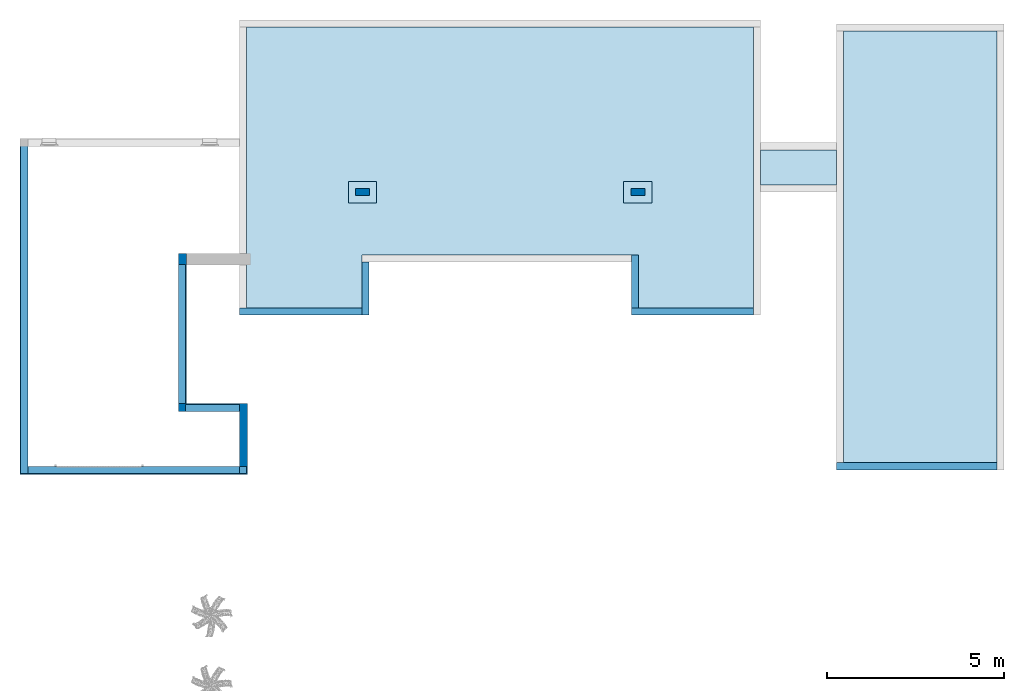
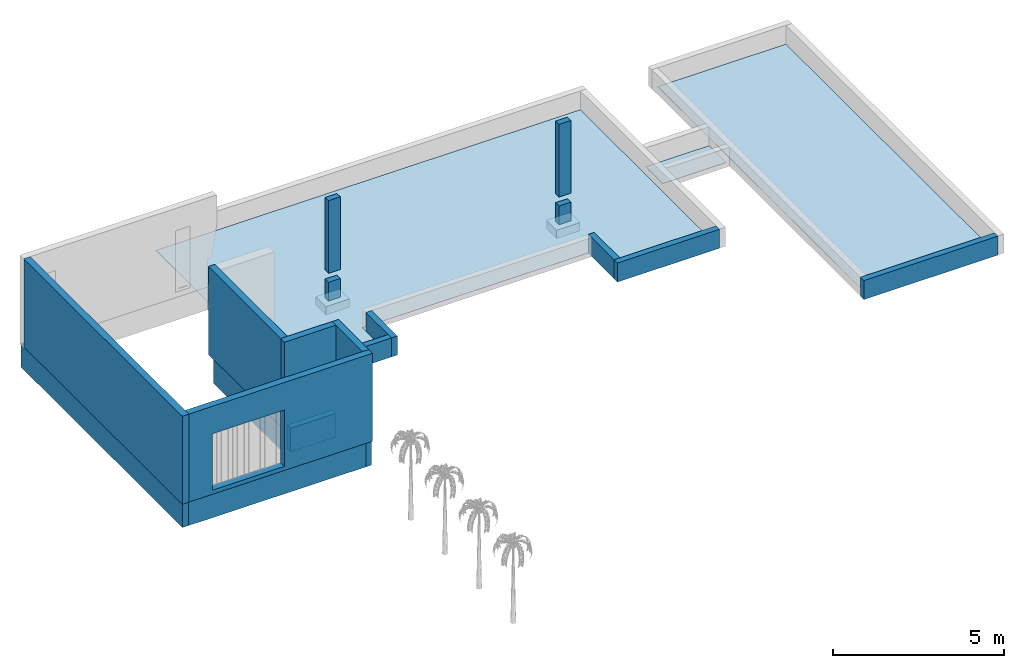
# One storey, part 1 of 3: 15 walls, 5 slabs, 2 columns, 1 opening.
"""IFC2X3 building model written with IfcOpenShell, lengths in metres."""

import ifcopenshell
import ifcopenshell.guid

model = None  # the IFC model being written
_history = None  # IfcOwnerHistory: only IFC2X3 demands one
_inside = {}  # id of a spatial element -> (the spatial element, [elements in it])
_under = {}  # id of a project, library or spatial element -> (it, [spatial elements below it])
_declared = {}  # id of a project -> (the project, [libraries it declares])
_typed = {}  # id of a type object -> (the type object, [elements of that type])
_made_of = {}  # id of a material, layer set ... -> (it, [elements and type objects made of it])


def new_model(schema):
    """Start an empty IFC model of exactly this schema.

    Asked for "IFC4X3", IfcOpenShell would pick the latest addendum, in which some entities
    have other attributes; the version numbers below select the first issue.
    IFC2X3 requires an IfcOwnerHistory on every rooted entity: one is made here for all.
    """
    global model, _history
    if schema == "IFC4X3":
        model = ifcopenshell.file(schema_version=(4, 3, 0, 0))
    else:
        model = ifcopenshell.file(schema=schema)
    _inside.clear()
    _under.clear()
    _declared.clear()
    _typed.clear()
    _made_of.clear()
    _history = None
    if model.schema == "IFC2X3":
        org = make("IfcOrganization", Name="unknown")
        user = make(
            "IfcPersonAndOrganization",
            ThePerson=make("IfcPerson", FamilyName="unknown"),
            TheOrganization=org,
        )
        app = make(
            "IfcApplication",
            ApplicationDeveloper=org,
            Version="unknown",
            ApplicationFullName="unknown",
            ApplicationIdentifier="unknown",
        )
        _history = make(
            "IfcOwnerHistory",
            OwningUser=user,
            OwningApplication=app,
            ChangeAction="ADDED",
            CreationDate=0,
        )
    return model


def make(cls, **values):
    """One entity of the class cls with the attributes given. An attribute that is None is left unset."""
    return model.create_entity(
        cls, **{name: value for name, value in values.items() if value is not None}
    )


def entity(cls, *values):
    """Any entity or typed value of the class cls, its attributes in the order of the schema. None: left unset."""
    e = model.create_entity(cls)
    for i, value in enumerate(values):
        if value is not None:
            e[i] = value
    return e


def rooted(cls, **values):
    """An entity with a GlobalId (a new one), such as an element, a storey or a relation."""
    return make(cls, GlobalId=ifcopenshell.guid.new(), OwnerHistory=_history, **values)


def si_unit(unit_type, name, prefix=None):
    """IfcSIUnit, for example si_unit("LENGTHUNIT", "METRE", prefix="MILLI")."""
    return make("IfcSIUnit", UnitType=unit_type, Prefix=prefix, Name=name)


def converted_unit(unit_type, name, factor, base, dimensions=None, offset=None):
    """IfcConversionBasedUnit, such as the inch: factor (a typed value) times the base unit."""
    return make(
        "IfcConversionBasedUnit"
        if offset is None
        else "IfcConversionBasedUnitWithOffset",
        ConversionOffset=offset,
        Dimensions=None
        if dimensions is None
        else entity("IfcDimensionalExponents", *dimensions),
        UnitType=unit_type,
        Name=name,
        ConversionFactor=make(
            "IfcMeasureWithUnit", ValueComponent=factor, UnitComponent=base
        ),
    )


def derived_unit(unit_type, elements):
    """IfcDerivedUnit: a product of units, each with its exponent."""
    return make(
        "IfcDerivedUnit",
        Elements=[
            make("IfcDerivedUnitElement", Unit=unit, Exponent=power)
            for unit, power in elements
        ],
        UnitType=unit_type,
    )


def assignment(units):
    """IfcUnitAssignment: the units of a project."""
    return None if units is None else make("IfcUnitAssignment", Units=units)


def point(xyz):
    """IfcCartesianPoint."""
    return None if xyz is None else make("IfcCartesianPoint", Coordinates=xyz)


def direction(xyz):
    """IfcDirection."""
    return None if xyz is None else make("IfcDirection", DirectionRatios=xyz)


def frame(location, z_axis=None, x_axis=None):
    """IfcAxis2Placement3D, a coordinate frame: its origin and axes. An axis left out is left unset."""
    return make(
        "IfcAxis2Placement3D",
        Location=point(location),
        Axis=direction(z_axis),
        RefDirection=direction(x_axis),
    )


def frame_2d(location, x_axis=None):
    """IfcAxis2Placement2D, a coordinate frame in the plane: its origin and x axis."""
    return make(
        "IfcAxis2Placement2D", Location=point(location), RefDirection=direction(x_axis)
    )


def origin():
    """The frame at (0, 0, 0) with its axes left unset."""
    return frame((0.0, 0.0, 0.0))


def origin_2d_with_axis():
    """The frame at (0, 0) in the plane with the x axis (1, 0) written out."""
    return frame_2d((0.0, 0.0), x_axis=(1.0, 0.0))


def place(relative_to, where):
    """IfcLocalPlacement: puts the frame where relative to a parent placement (None: the world)."""
    return make(
        "IfcLocalPlacement", PlacementRelTo=relative_to, RelativePlacement=where
    )


def context(
    kind, dimensions, precision=None, world=None, true_north=None, identifier=None
):
    """IfcGeometricRepresentationContext, for example the 3D "Model" context."""
    return make(
        "IfcGeometricRepresentationContext",
        ContextIdentifier=identifier,
        ContextType=kind,
        CoordinateSpaceDimension=dimensions,
        Precision=precision,
        WorldCoordinateSystem=world,
        TrueNorth=true_north,
    )


def subcontext(parent, identifier, kind, view, scale=None):
    """IfcGeometricRepresentationSubContext, for example "Body" below "Model"."""
    return make(
        "IfcGeometricRepresentationSubContext",
        ContextIdentifier=identifier,
        ContextType=kind,
        ParentContext=parent,
        TargetScale=scale,
        TargetView=view,
    )


def project(units=None, contexts=None):
    """IfcProject with its units and contexts."""
    return rooted(
        "IfcProject",
        Name="project",
        RepresentationContexts=contexts,
        UnitsInContext=assignment(units),
    )


def spatial(cls, under=None, at=None, **own):
    """A site, building, storey or space (cls), placed at a placement, below another one or the project."""
    s = rooted(cls, ObjectPlacement=at, **own)
    if under is not None:
        _under.setdefault(under.id(), (under, []))[1].append(s)
    return s


def polyline(points):
    """IfcPolyline through the points."""
    return make("IfcPolyline", Points=[point(p) for p in points])


def profile(cls, at=None, kind="AREA", **sizes):
    """A parametric profile (cls). Its sizes go by their IFC names, for example OverallWidth=200.0."""
    return make(cls, ProfileType=kind, Position=at, **sizes)


def rectangle(**sizes):
    """IfcRectangleProfileDef."""
    return profile("IfcRectangleProfileDef", **sizes)


def outline(outer, holes=None, kind="AREA"):
    """IfcArbitraryClosedProfileDef: a profile drawn as a closed curve; with holes, ...WithVoids."""
    if holes is None:
        return make("IfcArbitraryClosedProfileDef", ProfileType=kind, OuterCurve=outer)
    return make(
        "IfcArbitraryProfileDefWithVoids",
        ProfileType=kind,
        OuterCurve=outer,
        InnerCurves=holes,
    )


def extrude(swept, where, along, depth):
    """IfcExtrudedAreaSolid: the profile swept, set in the frame where, extruded along a direction by depth."""
    return make(
        "IfcExtrudedAreaSolid",
        SweptArea=swept,
        Position=where,
        ExtrudedDirection=direction(along),
        Depth=depth,
    )


def shape(context_of_items, identifier, shape_type, items):
    """IfcShapeRepresentation: the items that make up one representation, for example the "Body"."""
    return make(
        "IfcShapeRepresentation",
        ContextOfItems=context_of_items,
        RepresentationIdentifier=identifier,
        RepresentationType=shape_type,
        Items=items,
    )


def source(mapping_origin, context_of_items, identifier, shape_type, items):
    """IfcRepresentationMap: a shape defined once, which mapped items show again and again."""
    return make(
        "IfcRepresentationMap",
        MappingOrigin=mapping_origin,
        MappedRepresentation=shape(context_of_items, identifier, shape_type, items),
    )


def transform(
    local_origin,
    x_axis=None,
    y_axis=None,
    z_axis=None,
    scale=None,
    scale2=None,
    scale3=None,
    uniform=True,
):
    """IfcCartesianTransformationOperator3D, or its non-uniform kind. x_axis, y_axis, z_axis: its Axis1, 2, 3."""
    if uniform:
        return make(
            "IfcCartesianTransformationOperator3D",
            Axis1=direction(x_axis),
            Axis2=direction(y_axis),
            LocalOrigin=point(local_origin),
            Scale=scale,
            Axis3=direction(z_axis),
        )
    return make(
        "IfcCartesianTransformationOperator3DnonUniform",
        Axis1=direction(x_axis),
        Axis2=direction(y_axis),
        LocalOrigin=point(local_origin),
        Scale=scale,
        Axis3=direction(z_axis),
        Scale2=scale2,
        Scale3=scale3,
    )


def mapped(mapping_source, mapping_target):
    """IfcMappedItem: shows the shape of a source again, moved by a transform."""
    return make(
        "IfcMappedItem", MappingSource=mapping_source, MappingTarget=mapping_target
    )


def material(Name=None, Category=None):
    """IfcMaterial."""
    return make("IfcMaterial", Name=Name, Category=Category)


def layer(
    of_material, thickness, ventilated=None, Name=None, Category=None, Priority=None
):
    """IfcMaterialLayer: one layer of a wall or slab, of a material (None: an air gap)."""
    return make(
        "IfcMaterialLayer",
        Material=of_material,
        LayerThickness=thickness,
        IsVentilated=ventilated,
        Name=Name,
        Category=Category,
        Priority=Priority,
    )


def layer_set(layers, Name=None):
    """IfcMaterialLayerSet."""
    return make("IfcMaterialLayerSet", MaterialLayers=layers, LayerSetName=Name)


def layer_usage(for_layer_set, set_direction, sense, offset, extent=None):
    """IfcMaterialLayerSetUsage: how a layer set lies in its element."""
    return make(
        "IfcMaterialLayerSetUsage",
        ForLayerSet=for_layer_set,
        LayerSetDirection=set_direction,
        DirectionSense=sense,
        OffsetFromReferenceLine=offset,
        ReferenceExtent=extent,
    )


def made_of(thing, what):
    """Note that an element or type object is made of a material, layer set ...; save() writes the relation."""
    if what is not None:
        _made_of.setdefault(what.id(), (what, []))[1].append(thing)
    return thing


def type_object(cls, material=None, **own):
    """A type object (cls), such as IfcWallType, which elements share."""
    return made_of(rooted(cls, **own), material)


def type_shapes(of_type, sources):
    """Give a type object the sources (RepresentationMaps) that its elements show as mapped items."""
    of_type.RepresentationMaps = sources


def element(
    cls,
    number,
    at=None,
    inside=None,
    cuts=None,
    type_object=None,
    material=None,
    context=None,
    identifier="Body",
    shape_type=None,
    held_by="IfcProductDefinitionShape",
    body=None,
    shapes=None,
    **own,
):
    """One element of the class cls, such as IfcWall. Its Tag is "e" and its number.

    at: its placement. inside: the storey or other place that contains it. cuts: it is an
    opening in that element (IfcRelVoidsElement). A single representation is given by context,
    identifier, shape_type and body (its items); several are given by shapes. held_by: the class
    of the entity that holds the representations. save() writes the other relations.
    """
    e = rooted(cls, Tag="e%d" % number, ObjectPlacement=at, **own)
    if body is not None:
        shapes = [shape(context, identifier, shape_type, body)]
    if shapes is not None:
        e.Representation = make(held_by, Representations=shapes)
    if inside is not None:
        _inside.setdefault(inside.id(), (inside, []))[1].append(e)
    if cuts is not None:
        rooted(
            "IfcRelVoidsElement", RelatingBuildingElement=cuts, RelatedOpeningElement=e
        )
    if type_object is not None:
        _typed.setdefault(type_object.id(), (type_object, []))[1].append(e)
    return made_of(e, material)


def aggregate(whole, parts):
    """IfcRelAggregates: a whole, such as a stair, and the parts it consists of."""
    return rooted("IfcRelAggregates", RelatingObject=whole, RelatedObjects=parts)


def save(model, path):
    """Write the relations noted so far, then the file.

    IfcRelAggregates (storeys below a building ...), IfcRelContainedInSpatialStructure (elements
    in a storey), IfcRelDefinesByType, IfcRelAssociatesMaterial and IfcRelDeclares: one each for
    every whole, place, type object, material and project.
    """
    for whole, parts in _under.values():
        aggregate(whole, parts)
    for where, things in _inside.values():
        rooted(
            "IfcRelContainedInSpatialStructure",
            RelatedElements=things,
            RelatingStructure=where,
        )
    for kind, things in _typed.values():
        rooted("IfcRelDefinesByType", RelatedObjects=things, RelatingType=kind)
    for what, things in _made_of.values():
        rooted("IfcRelAssociatesMaterial", RelatedObjects=things, RelatingMaterial=what)
    for by, libraries in _declared.values():
        rooted("IfcRelDeclares", RelatingContext=by, RelatedDefinitions=libraries)
    model.write(path)


model = new_model("IFC2X3")

# Units and contexts
model_context = context("Model", 3, precision=1e-05, world=origin(), true_north=direction((6.12303176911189e-17, 1.0)))
body_context = subcontext(model_context, "Body", "Model", "MODEL_VIEW")
ifc_project = project(units=[si_unit("LENGTHUNIT", "METRE"), si_unit("AREAUNIT", "SQUARE_METRE"), si_unit("VOLUMEUNIT", "CUBIC_METRE"), converted_unit("PLANEANGLEUNIT", "DEGREE", entity("IfcRatioMeasure", 0.0174532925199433), si_unit("PLANEANGLEUNIT", "RADIAN"), dimensions=[0, 0, 0, 0, 0, 0, 0]), si_unit("MASSUNIT", "GRAM", prefix="KILO"), derived_unit("MASSDENSITYUNIT", [(si_unit("MASSUNIT", "GRAM", prefix="KILO"), 1), (si_unit("LENGTHUNIT", "METRE"), -3)]), si_unit("TIMEUNIT", "SECOND"), si_unit("FREQUENCYUNIT", "HERTZ"), si_unit("THERMODYNAMICTEMPERATUREUNIT", "DEGREE_CELSIUS"), derived_unit("THERMALTRANSMITTANCEUNIT", [(si_unit("MASSUNIT", "GRAM", prefix="KILO"), 1), (si_unit("THERMODYNAMICTEMPERATUREUNIT", "KELVIN"), -1), (si_unit("TIMEUNIT", "SECOND"), -3)]), derived_unit("VOLUMETRICFLOWRATEUNIT", [(si_unit("LENGTHUNIT", "METRE"), 3), (si_unit("TIMEUNIT", "SECOND"), -1)]), si_unit("ELECTRICCURRENTUNIT", "AMPERE"), si_unit("ELECTRICVOLTAGEUNIT", "VOLT"), si_unit("POWERUNIT", "WATT"), si_unit("FORCEUNIT", "NEWTON", prefix="KILO"), si_unit("ILLUMINANCEUNIT", "LUX"), si_unit("LUMINOUSFLUXUNIT", "LUMEN"), si_unit("LUMINOUSINTENSITYUNIT", "CANDELA"), derived_unit("USERDEFINED", [(si_unit("MASSUNIT", "GRAM", prefix="KILO"), -1), (si_unit("LENGTHUNIT", "METRE"), -2), (si_unit("TIMEUNIT", "SECOND"), 3), (si_unit("LUMINOUSFLUXUNIT", "LUMEN"), 1)]), derived_unit("LINEARVELOCITYUNIT", [(si_unit("LENGTHUNIT", "METRE"), 1), (si_unit("TIMEUNIT", "SECOND"), -1)]), si_unit("PRESSUREUNIT", "PASCAL"), derived_unit("USERDEFINED", [(si_unit("LENGTHUNIT", "METRE"), -2), (si_unit("MASSUNIT", "GRAM", prefix="KILO"), 1), (si_unit("TIMEUNIT", "SECOND"), -2)])], contexts=[model_context])

# Site, building, storey
site_placement = place(None, origin())
site = spatial("IfcSite", under=ifc_project, at=site_placement, Name="Surface", CompositionType="ELEMENT")
building_placement = place(site_placement, origin())
building = spatial("IfcBuilding", under=site, at=building_placement, CompositionType="ELEMENT")
storey_placement = place(building_placement, frame((0.0, 0.0, -1.0)))
storey = spatial("IfcBuildingStorey", under=building, at=storey_placement, Name="1 Mur de soubassement", CompositionType="ELEMENT", Elevation=-1.0000000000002)

# Columns
ifc_material_1 = material(Name="Maçonnerie - Béton coulé sur place")
column_type_1 = type_object("IfcColumnType", Name="200 mm x 400 mm", PredefinedType="COLUMN")
shared_shape_1 = source(origin(), body_context, "Body", "SweptSolid", [
    extrude(rectangle(XDim=0.199999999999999, YDim=0.4, at=origin_2d_with_axis()), frame((-1.5024888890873, 2.97701067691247, -1.0), z_axis=(0.0, 0.0, 1.0), x_axis=(0.0, -1.0, 0.0)), (0.0, 0.0, 1.0), 0.680000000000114),
    extrude(rectangle(XDim=0.199999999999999, YDim=0.4, at=origin_2d_with_axis()), frame((-1.5024888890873, 2.97701067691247, 0.0), z_axis=(0.0, 0.0, 1.0), x_axis=(0.0, -1.0, 0.0)), (0.0, 0.0, 1.0), 2.59999999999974),
])
type_shapes(column_type_1, [shared_shape_1])
column_1_placement = place(storey_placement, frame((0.0, 0.0, 1.0)))
element("IfcColumn", 1, at=column_1_placement, inside=storey, type_object=column_type_1, material=ifc_material_1, Name="Poteau béton - Rectangulaire:200 mm x 400 mm", ObjectType="200 mm x 400 mm", context=body_context, shape_type="MappedRepresentation", body=[
    mapped(shared_shape_1, transform((0.0, 0.0, 0.0), scale=1.0)),
])
column_type_2 = type_object("IfcColumnType", Name="200 mm x 400 mm", PredefinedType="COLUMN")
shared_shape_2 = source(origin(), body_context, "Body", "SweptSolid", [
    extrude(rectangle(XDim=0.199999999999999, YDim=0.4, at=origin_2d_with_axis()), frame((6.2975111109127, 2.97701067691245, -1.0), z_axis=(0.0, 0.0, 1.0), x_axis=(0.0, -1.0, 0.0)), (0.0, 0.0, 1.0), 0.680000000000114),
    extrude(rectangle(XDim=0.199999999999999, YDim=0.4, at=origin_2d_with_axis()), frame((6.2975111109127, 2.97701067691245, 0.0), z_axis=(0.0, 0.0, 1.0), x_axis=(0.0, -1.0, 0.0)), (0.0, 0.0, 1.0), 2.59999999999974),
])
type_shapes(column_type_2, [shared_shape_2])
column_2_placement = place(storey_placement, frame((0.0, 0.0, 1.0)))
element("IfcColumn", 2, at=column_2_placement, inside=storey, type_object=column_type_2, material=ifc_material_1, Name="Poteau béton - Rectangulaire:200 mm x 400 mm", ObjectType="200 mm x 400 mm", context=body_context, shape_type="MappedRepresentation", body=[
    mapped(shared_shape_2, transform((0.0, 0.0, 0.0), scale=1.0)),
])

# Slabs
ifc_material_2 = material(Name="Béton - Béton coulé sur place")
slab_1_placement = place(storey_placement, origin())
element("IfcSlab", 3, at=slab_1_placement, inside=storey, material=ifc_material_2, Name="Base rectangulaire:800mm x600mm x 300mm", ObjectType="Base rectangulaire:800mm x600mm x 300mm", PredefinedType="FLOOR", context=body_context, shape_type="SweptSolid", body=[
    extrude(rectangle(XDim=0.6, YDim=0.8, at=frame_2d((2.77555756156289e-16, -5.55111512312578e-16), x_axis=(1.0, 0.0))), frame((6.2975111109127, 2.97701067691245, -0.300000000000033), z_axis=(0.0, 0.0, 1.0), x_axis=(0.0, -1.0, 0.0)), (0.0, 0.0, 1.0), 0.3),
    extrude(rectangle(XDim=0.6, YDim=0.8, at=frame_2d((2.77555756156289e-16, -5.55111512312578e-16), x_axis=(1.0, 0.0))), frame((6.2975111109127, 2.97701067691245, -0.300000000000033), z_axis=(0.0, 0.0, 1.0), x_axis=(0.0, -1.0, 0.0)), (0.0, 0.0, 1.0), 0.3),
])
slab_2_placement = place(storey_placement, origin())
element("IfcSlab", 4, at=slab_2_placement, inside=storey, material=ifc_material_2, Name="Base rectangulaire:800mm x600mm x 300mm", ObjectType="Base rectangulaire:800mm x600mm x 300mm", PredefinedType="FLOOR", context=body_context, shape_type="SweptSolid", body=[
    extrude(rectangle(XDim=0.6, YDim=0.8, at=frame_2d((0.0, -5.55111512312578e-17), x_axis=(1.0, 0.0))), frame((-1.5024888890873, 2.97701067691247, -0.300000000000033), z_axis=(0.0, 0.0, 1.0), x_axis=(0.0, -1.0, 0.0)), (0.0, 0.0, 1.0), 0.3),
    extrude(rectangle(XDim=0.6, YDim=0.8, at=frame_2d((0.0, -5.55111512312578e-17), x_axis=(1.0, 0.0))), frame((-1.5024888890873, 2.97701067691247, -0.300000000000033), z_axis=(0.0, 0.0, 1.0), x_axis=(0.0, -1.0, 0.0)), (0.0, 0.0, 1.0), 0.3),
])
ifc_material_3 = material(Name="Terre")
ifc_layer_1 = layer(ifc_material_3, 0.01)
ifc_layer_set_1 = layer_set([ifc_layer_1], Name="Terre-plein:Terre - plein terre 1 cm")
ifc_layer_usage_1 = layer_usage(ifc_layer_set_1, "AXIS3", "NEGATIVE", 0.0)
slab_3_placement = place(storey_placement, origin())
element("IfcSlab", 5, at=slab_3_placement, inside=storey, material=ifc_layer_usage_1, Name="Terre-plein:Terre - plein terre 1 cm", ObjectType="Terre-plein:Terre - plein terre 1 cm", PredefinedType="FLOOR", context=body_context, shape_type="SweptSolid", body=[
    extrude(rectangle(XDim=4.33907358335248, YDim=12.23, at=frame_2d((-2.22044604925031e-15, 0.0), x_axis=(1.0, 0.0))), frame((14.2979743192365, 1.42938495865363, 0.0), z_axis=(0.0, 0.0, 1.0), x_axis=(-1.0, 0.0, 0.0)), (0.0, 0.0, 1.0), 0.01),
])
ifc_layer_usage_2 = layer_usage(ifc_layer_set_1, "AXIS3", "NEGATIVE", 0.0)
slab_4_placement = place(storey_placement, origin())
element("IfcSlab", 6, at=slab_4_placement, inside=storey, material=ifc_layer_usage_2, Name="Terre-plein:Terre - plein terre 1 cm", ObjectType="Terre-plein:Terre - plein terre 1 cm", PredefinedType="FLOOR", context=body_context, shape_type="SweptSolid", body=[
    extrude(rectangle(XDim=2.15092641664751, YDim=1.00000000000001, at=frame_2d((1.11022302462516e-15, -2.22044604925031e-16), x_axis=(1.0, 0.0))), frame((10.8529743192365, 3.67701067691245, 0.0), z_axis=(0.0, 0.0, 1.0), x_axis=(-1.0, 0.0, 0.0)), (0.0, 0.0, 1.0), 0.01),
])
ifc_layer_usage_3 = layer_usage(ifc_layer_set_1, "AXIS3", "NEGATIVE", 0.0)
slab_5_placement = place(storey_placement, origin())
element("IfcSlab", 7, at=slab_5_placement, inside=storey, material=ifc_layer_usage_3, Name="Terre-plein:Terre - plein terre 1 cm", ObjectType="Terre-plein:Terre - plein terre 1 cm", PredefinedType="FLOOR", context=body_context, shape_type="SweptSolid", body=[
    extrude(outline(polyline([(-7.18000000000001, -5.5920910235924), (7.18000000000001, -5.5920910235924), (7.18000000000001, 2.36403034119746), (3.92, 2.36403034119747), (3.92, 0.864030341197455), (-3.92, 0.86403034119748), (-3.92, 2.36403034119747), (-7.18000000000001, 2.36403034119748), (-7.18000000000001, -5.5920910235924)])), frame((2.3975111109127, 2.06104101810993, 0.0), z_axis=(0.0, 0.0, 1.0), x_axis=(-1.0, 0.0, 0.0)), (0.0, 0.0, 1.0), 0.01),
])

# Wall
ifc_material_4 = material(Name="Maçonnerie - Enduit")
ifc_layer_2 = layer(ifc_material_4, 0.02)
ifc_material_5 = material(Name="Blocs béton manufacturés")
ifc_layer_3 = layer(ifc_material_5, 0.2)
ifc_layer_set_2 = layer_set([ifc_layer_2, ifc_layer_3], Name="Mur de base:Ext. Crépis 2 + BBMC 20")
ifc_layer_usage_4 = layer_usage(ifc_layer_set_2, "AXIS2", "POSITIVE", -0.11)
wall_type_1 = type_object("IfcWallType", Name="Mur de base:Ext. Crépis 2 + BBMC 20", PredefinedType="STANDARD", material=ifc_layer_set_2)
wall_1_placement = place(storey_placement, frame((-11.0924888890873, 4.27701067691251, 0.850000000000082), z_axis=(0.0, 0.0, 1.0), x_axis=(0.0, -1.0, 0.0)))
element("IfcWallStandardCase", 8, at=wall_1_placement, inside=storey, type_object=wall_type_1, material=ifc_layer_usage_4, Name="Mur de base:Ext. Crépis 2 + BBMC 20", ObjectType="Mur de base:Ext. Crépis 2 + BBMC 20", context=body_context, shape_type="SweptSolid", body=[
    extrude(rectangle(XDim=9.29, YDim=0.220000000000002, at=frame_2d((4.645, 0.0), x_axis=(-1.0, 0.0))), origin(), (0.0, 0.0, 1.0), 3.14999999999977),
])

# Wall, opening
ifc_layer_usage_5 = layer_usage(ifc_layer_set_2, "AXIS2", "POSITIVE", -0.11)
wall_2_placement = place(storey_placement, frame((-10.9824888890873, -4.90298932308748, 0.853071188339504)))
wall_2 = element("IfcWallStandardCase", 9, at=wall_2_placement, inside=storey, type_object=wall_type_1, material=ifc_layer_usage_5, Name="Mur de base:Ext. Crépis 2 + BBMC 20", ObjectType="Mur de base:Ext. Crépis 2 + BBMC 20", context=body_context, shape_type="SweptSolid", body=[
    extrude(rectangle(XDim=6.21999999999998, YDim=0.22, at=frame_2d((3.10999999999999, 0.0), x_axis=(-1.0, 0.0))), origin(), (0.0, 0.0, 1.0), 3.14692881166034),
])
opening_placement = place(wall_2_placement, frame((10.9824888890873, 4.90298932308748, 0.146928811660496)))
element("IfcOpeningElement", 10, at=opening_placement, cuts=wall_2, Name="Mur de base:Ext. Crépis 2 + BBMC 20", ObjectType="Opening", context=body_context, shape_type="SweptSolid", body=[
    extrude(rectangle(XDim=2.01500000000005, YDim=2.42999999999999, at=origin_2d_with_axis()), frame((-8.9674888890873, -5.31298932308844, 1.00750000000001), z_axis=(0.0, 1.0, 0.0), x_axis=(0.0, 0.0, -1.0)), (0.0, 0.0, 1.0), 0.820000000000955),
])

# Walls
ifc_layer_usage_6 = layer_usage(ifc_layer_set_2, "AXIS2", "POSITIVE", -0.11)
wall_3_placement = place(storey_placement, frame((-4.87248888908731, -4.79298932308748, 1.0), z_axis=(0.0, 0.0, 1.0), x_axis=(0.0, 1.0, 0.0)))
element("IfcWallStandardCase", 11, at=wall_3_placement, inside=storey, type_object=wall_type_1, material=ifc_layer_usage_6, Name="Mur de base:Ext. Crépis 2 + BBMC 20", ObjectType="Mur de base:Ext. Crépis 2 + BBMC 20", context=body_context, shape_type="SweptSolid", body=[
    extrude(rectangle(XDim=1.78, YDim=0.22, at=frame_2d((0.89, 9.0205620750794e-17), x_axis=(-1.0, 0.0))), origin(), (0.0, 0.0, 1.0), 2.99999999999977),
])
ifc_layer_usage_7 = layer_usage(ifc_layer_set_2, "AXIS2", "POSITIVE", -0.11)
wall_4_placement = place(storey_placement, frame((-4.78248888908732, -3.12298932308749, 0.847301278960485), z_axis=(0.0, 0.0, 1.0), x_axis=(-1.0, 0.0, 0.0)))
element("IfcWallStandardCase", 12, at=wall_4_placement, inside=storey, type_object=wall_type_1, material=ifc_layer_usage_7, Name="Mur de base:Ext. Crépis 2 + BBMC 20", ObjectType="Mur de base:Ext. Crépis 2 + BBMC 20", context=body_context, shape_type="SweptSolid", body=[
    extrude(rectangle(XDim=1.92999999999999, YDim=0.22, at=frame_2d((0.964999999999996, -3.46944695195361e-16), x_axis=(-1.0, 0.0))), origin(), (0.0, 0.0, 1.0), 3.15269872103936),
])
ifc_layer_usage_8 = layer_usage(ifc_layer_set_2, "AXIS2", "POSITIVE", -0.11)
wall_5_placement = place(storey_placement, frame((-6.60248888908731, -3.01298932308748, 0.85000000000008), z_axis=(0.0, 0.0, 1.0), x_axis=(0.0, 1.0, 0.0)))
element("IfcWallStandardCase", 13, at=wall_5_placement, inside=storey, type_object=wall_type_1, material=ifc_layer_usage_8, Name="Mur de base:Ext. Crépis 2 + BBMC 20", ObjectType="Mur de base:Ext. Crépis 2 + BBMC 20", context=body_context, shape_type="SweptSolid", body=[
    extrude(rectangle(XDim=4.24999999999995, YDim=0.22, at=frame_2d((2.12499999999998, 2.70616862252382e-16), x_axis=(-1.0, 0.0))), origin(), (0.0, 0.0, 1.0), 3.14999999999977),
])
ifc_layer_4 = layer(ifc_material_5, 0.2)
ifc_layer_set_3 = layer_set([ifc_layer_4], Name="Mur de base:Mur soubassement BB 20")
ifc_layer_usage_9 = layer_usage(ifc_layer_set_3, "AXIS2", "NEGATIVE", 0.1)
wall_type_2 = type_object("IfcWallType", Name="Mur de base:Mur soubassement BB 20", PredefinedType="STANDARD", material=ifc_layer_set_3)
wall_6_placement = place(storey_placement, frame((9.5775111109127, -0.402989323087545, 0.0), z_axis=(0.0, 0.0, 1.0), x_axis=(-1.0, 0.0, 0.0)))
element("IfcWallStandardCase", 14, at=wall_6_placement, inside=storey, type_object=wall_type_2, material=ifc_layer_usage_9, Name="Mur de base:Mur soubassement BB 20", ObjectType="Mur de base:Mur soubassement BB 20", context=body_context, shape_type="SweptSolid", body=[
    extrude(rectangle(XDim=3.46, YDim=0.2, at=frame_2d((1.73, 3.46944695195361e-17), x_axis=(-1.0, 0.0))), origin(), (0.0, 0.0, 1.0), 0.680000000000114),
])
ifc_layer_usage_10 = layer_usage(ifc_layer_set_3, "AXIS2", "NEGATIVE", 0.1)
wall_7_placement = place(storey_placement, frame((6.2175111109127, -0.302989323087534, 0.0), z_axis=(0.0, 0.0, 1.0), x_axis=(0.0, 1.0, 0.0)))
element("IfcWallStandardCase", 15, at=wall_7_placement, inside=storey, type_object=wall_type_2, material=ifc_layer_usage_10, Name="Mur de base:Mur soubassement BB 20", ObjectType="Mur de base:Mur soubassement BB 20", context=body_context, shape_type="SweptSolid", body=[
    extrude(rectangle(XDim=1.49999999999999, YDim=0.2, at=frame_2d((0.749999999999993, -2.35922392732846e-16), x_axis=(-1.0, 0.0))), origin(), (0.0, 0.0, 1.0), 0.680000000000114),
])
ifc_layer_usage_11 = layer_usage(ifc_layer_set_3, "AXIS2", "NEGATIVE", 0.1)
wall_8_placement = place(storey_placement, frame((-1.4224888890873, 0.997010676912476, 0.0), z_axis=(0.0, 0.0, 1.0), x_axis=(0.0, -1.0, 0.0)))
element("IfcWallStandardCase", 16, at=wall_8_placement, inside=storey, type_object=wall_type_2, material=ifc_layer_usage_11, Name="Mur de base:Mur soubassement BB 20", ObjectType="Mur de base:Mur soubassement BB 20", context=body_context, shape_type="SweptSolid", body=[
    extrude(rectangle(XDim=1.50000000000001, YDim=0.2, at=frame_2d((0.750000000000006, -8.32667268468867e-17), x_axis=(-1.0, 0.0))), origin(), (0.0, 0.0, 1.0), 0.680000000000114),
])
ifc_layer_usage_12 = layer_usage(ifc_layer_set_3, "AXIS2", "NEGATIVE", 0.1)
wall_9_placement = place(storey_placement, frame((-1.5224888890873, -0.402989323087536, 0.0), z_axis=(0.0, 0.0, 1.0), x_axis=(-1.0, 0.0, 0.0)))
element("IfcWallStandardCase", 17, at=wall_9_placement, inside=storey, type_object=wall_type_2, material=ifc_layer_usage_12, Name="Mur de base:Mur soubassement BB 20", ObjectType="Mur de base:Mur soubassement BB 20", context=body_context, shape_type="SweptSolid", body=[
    extrude(rectangle(XDim=3.46, YDim=0.2, at=frame_2d((1.73, 3.46944695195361e-17), x_axis=(-1.0, 0.0))), origin(), (0.0, 0.0, 1.0), 0.680000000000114),
])
ifc_layer_usage_13 = layer_usage(ifc_layer_set_3, "AXIS2", "NEGATIVE", 0.1)
wall_10_placement = place(storey_placement, frame((16.4675111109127, -4.78561504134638, 0.0), z_axis=(0.0, 0.0, 1.0), x_axis=(-1.0, 0.0, 0.0)))
element("IfcWallStandardCase", 18, at=wall_10_placement, inside=storey, type_object=wall_type_2, material=ifc_layer_usage_13, Name="Mur de base:Mur soubassement BB 20", ObjectType="Mur de base:Mur soubassement BB 20", context=body_context, shape_type="SweptSolid", body=[
    extrude(rectangle(XDim=4.5390735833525, YDim=0.2, at=frame_2d((2.26953679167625, -3.46944695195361e-17), x_axis=(-1.0, 0.0))), origin(), (0.0, 0.0, 1.0), 0.680000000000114),
])
ifc_layer_usage_14 = layer_usage(ifc_layer_set_3, "AXIS2", "POSITIVE", -0.1)
wall_11_placement = place(storey_placement, frame((-11.0824888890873, -4.99298932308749, 0.0), z_axis=(0.0, 0.0, 1.0), x_axis=(0.0, 1.0, 0.0)))
element("IfcWallStandardCase", 19, at=wall_11_placement, inside=storey, type_object=wall_type_2, material=ifc_layer_usage_14, Name="Mur de base:Mur soubassement BB 20", ObjectType="Mur de base:Mur soubassement BB 20", context=body_context, shape_type="SweptSolid", body=[
    extrude(rectangle(XDim=9.47, YDim=0.199999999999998, at=frame_2d((4.735, 3.40005801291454e-16), x_axis=(-1.0, 0.0))), origin(), (0.0, 0.0, 1.0), 0.850000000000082),
])
ifc_layer_usage_15 = layer_usage(ifc_layer_set_3, "AXIS2", "NEGATIVE", 0.1)
wall_12_placement = place(storey_placement, frame((-4.88248888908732, -3.03298932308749, 0.0), z_axis=(0.0, 0.0, 1.0), x_axis=(0.0, -1.0, 0.0)))
element("IfcWallStandardCase", 20, at=wall_12_placement, inside=storey, type_object=wall_type_2, material=ifc_layer_usage_15, Name="Mur de base:Mur soubassement BB 20", ObjectType="Mur de base:Mur soubassement BB 20", context=body_context, shape_type="SweptSolid", body=[
    extrude(rectangle(XDim=1.96000000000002, YDim=0.200000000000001, at=frame_2d((0.98000000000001, -7.7715611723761e-16), x_axis=(-1.0, 0.0))), origin(), (0.0, 0.0, 1.0), 1.00000000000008),
])
ifc_layer_usage_16 = layer_usage(ifc_layer_set_3, "AXIS2", "POSITIVE", -0.1)
wall_13_placement = place(storey_placement, frame((-10.9824888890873, -4.89298932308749, 0.0)))
element("IfcWallStandardCase", 21, at=wall_13_placement, inside=storey, type_object=wall_type_2, material=ifc_layer_usage_16, Name="Mur de base:Mur soubassement BB 20", ObjectType="Mur de base:Mur soubassement BB 20", context=body_context, shape_type="SweptSolid", body=[
    extrude(rectangle(XDim=5.99999999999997, YDim=0.2, at=frame_2d((2.99999999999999, 0.0), x_axis=(-1.0, 0.0))), origin(), (0.0, 0.0, 1.0), 0.853071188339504),
])
ifc_layer_usage_17 = layer_usage(ifc_layer_set_3, "AXIS2", "NEGATIVE", 0.1)
wall_14_placement = place(storey_placement, frame((-6.61248888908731, -3.23298932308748, 0.0), z_axis=(0.0, 0.0, 1.0), x_axis=(0.0, 1.0, 0.0)))
element("IfcWallStandardCase", 22, at=wall_14_placement, inside=storey, type_object=wall_type_2, material=ifc_layer_usage_17, Name="Mur de base:Mur soubassement BB 20", ObjectType="Mur de base:Mur soubassement BB 20", context=body_context, shape_type="SweptSolid", body=[
    extrude(rectangle(XDim=4.15999999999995, YDim=0.2, at=frame_2d((2.07999999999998, 6.93889390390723e-17), x_axis=(-1.0, 0.0))), origin(), (0.0, 0.0, 1.0), 0.85000000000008),
])
ifc_layer_usage_18 = layer_usage(ifc_layer_set_3, "AXIS2", "POSITIVE", -0.1)
wall_15_placement = place(storey_placement, frame((-6.51248888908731, -3.13298932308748, 0.0)))
element("IfcWallStandardCase", 23, at=wall_15_placement, inside=storey, type_object=wall_type_2, material=ifc_layer_usage_18, Name="Mur de base:Mur soubassement BB 20", ObjectType="Mur de base:Mur soubassement BB 20", context=body_context, shape_type="SweptSolid", body=[
    extrude(rectangle(XDim=1.52999999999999, YDim=0.2, at=frame_2d((0.764999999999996, -4.16333634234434e-17), x_axis=(-1.0, 0.0))), origin(), (0.0, 0.0, 1.0), 0.847301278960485),
])

save(model, "model.ifc")
